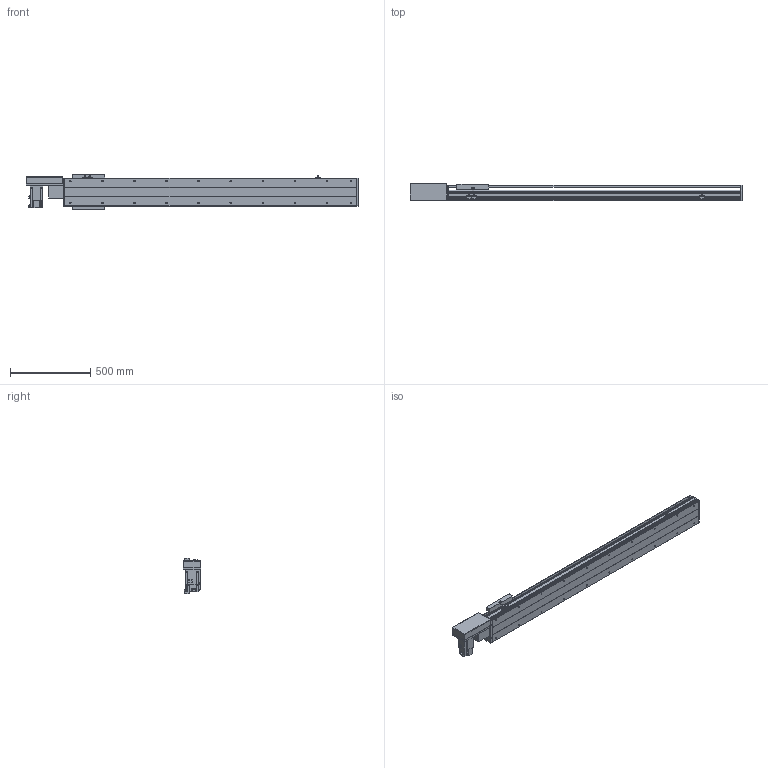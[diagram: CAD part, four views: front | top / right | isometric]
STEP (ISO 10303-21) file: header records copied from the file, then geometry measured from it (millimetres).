
FILE_DESCRIPTION(/* description */ ('STEP AP214'),/* implementation_level */ '2;1');
FILE_NAME(/* name */ 'PBS200-P40-S1450-R-T75-C1-N(0)',/* time_stamp */ '2022-06-11T08:06:18+02:00',/* author */ ('License CC BY-ND 4.0'),/* organization */ ('CADENAS'),/* preprocessor_version */ 'ST-DEVELOPER v18.102',/* originating_system */ 'PARTsolutions',/* authorisation */ ' ');
FILE_SCHEMA (('AUTOMOTIVE_DESIGN {1 0 10303 214 3 1 1}'));
Length unit declared in the file: millimetre
Products named in the file (7): PBS200-P40-S1450-R-T75-C1-N(0); PBS200_sensor; PBS200_plant; PBS200_sliser; T75-p1; PBS200T-R_motors; PBS200-S1450()_body
Assembly tree (8 placements, depth 2):
  PBS200-P40-S1450-R-T75-C1-N(0)
    PBS200_sensor  x3
    PBS200_plant
    PBS200_sliser
    T75-p1
    PBS200T-R_motors
    PBS200-S1450()_body
Bounding box: 2072 x 109 x 221 mm (x, y, z)
Volume: 14047396.6 mm3; surface area: 2262518.6 mm2
Topology: 8 solids, 8 shells, 932 faces, 2394 edges, 1560 vertices
Faces by surface type: plane 578, cylinder 302, cone 52
Full cylindrical faces by diameter (mm): 2.459 x6, 3.242 x4, 4.5 x6, 4.917 x4, 5 x6, 6 x7, 6.6 x8, 6.647 x24, 8 x6, 10 x4, 12 x8, 38 x2, 40 x1, 70 x1
Entity records: 24821 total; most frequent: DIRECTION 4375, CARTESIAN_POINT 4228, ORIENTED_EDGE 4006, EDGE_CURVE 2003, AXIS2_PLACEMENT_3D 1531, VERTEX_POINT 1384, LINE 1313, VECTOR 1313
